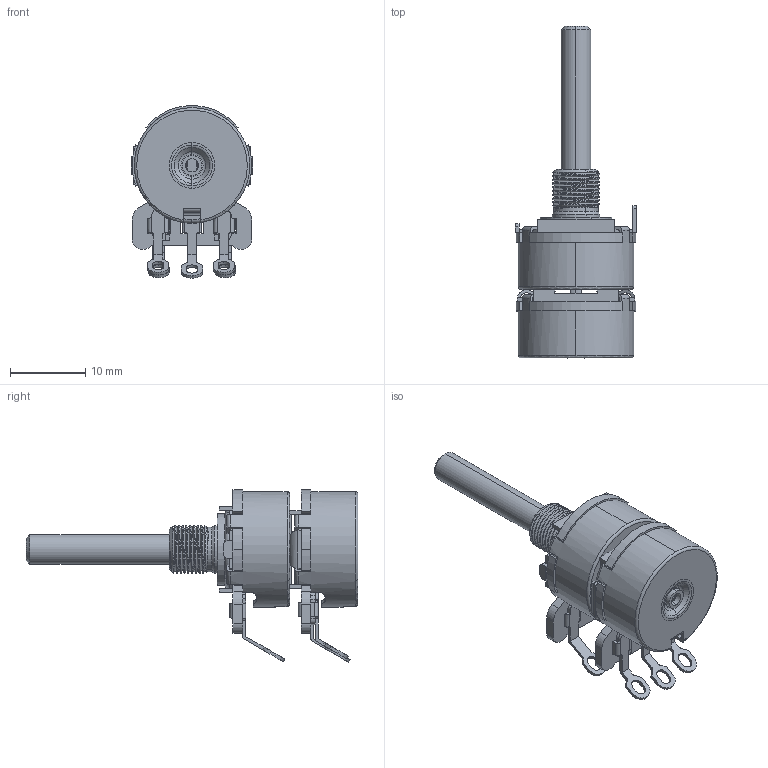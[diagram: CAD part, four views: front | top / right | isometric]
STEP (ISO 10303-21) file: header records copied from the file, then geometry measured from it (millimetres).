
FILE_DESCRIPTION (( 'STEP AP214' ), '1' );
FILE_NAME ('270T232R472B1C1.STEP', '2019-05-24T07:52:03', ( '' ), ( '' ), 'SwSTEP 2.0', 'SolidWorks 2019', '' );
FILE_SCHEMA (( 'AUTOMOTIVE_DESIGN' ));
Length unit declared in the file: millimetre
Products named in the file (15): 270-40-060-02-42; 270-13-122-06-12 (for 270-95-012); Shaft for 270T232R472B1C1; 270A-B-2244; 270-95-012-00-00(foe base 121); 270-01-135-30-01G; 270-18-028-01-37(for 270-95-029); 270T232R472B1C1; 270-40-010-02-37 for 270S2029A; 270 element; 270-01-121-30-01G; 270-07-014-01-53; 270-95-029-00-00; 270-18-016-01-37(for 270-95-012); 270-06-004-01-53
Assembly tree (14 placements, depth 3):
  270T232R472B1C1
    270-40-060-02-42
    270-06-004-01-53
    270-40-010-02-37 for 270S2029A
    270-07-014-01-53
    Shaft for 270T232R472B1C1
    270-95-012-00-00(foe base 121)
      270 element
      270-13-122-06-12 (for 270-95-012)
      270-18-016-01-37(for 270-95-012)
      270-01-121-30-01G
    270-95-029-00-00
      270-01-135-30-01G
      270-18-028-01-37(for 270-95-029)
    270A-B-2244
Bounding box: 16.16 x 44.09 x 22.91 mm (x, y, z)
Volume: 1769.8 mm3; surface area: 5602.3 mm2
Topology: 14 solids, 14 shells, 1013 faces, 2877 edges, 1891 vertices
Faces by surface type: plane 614, cylinder 325, torus 41, cone 27, bspline 6
Entity records: 34943 total; most frequent: CARTESIAN_POINT 7613, ORIENTED_EDGE 5754, DIRECTION 5468, EDGE_CURVE 2877, LINE 1912, VECTOR 1912, VERTEX_POINT 1891, AXIS2_PLACEMENT_3D 1778
